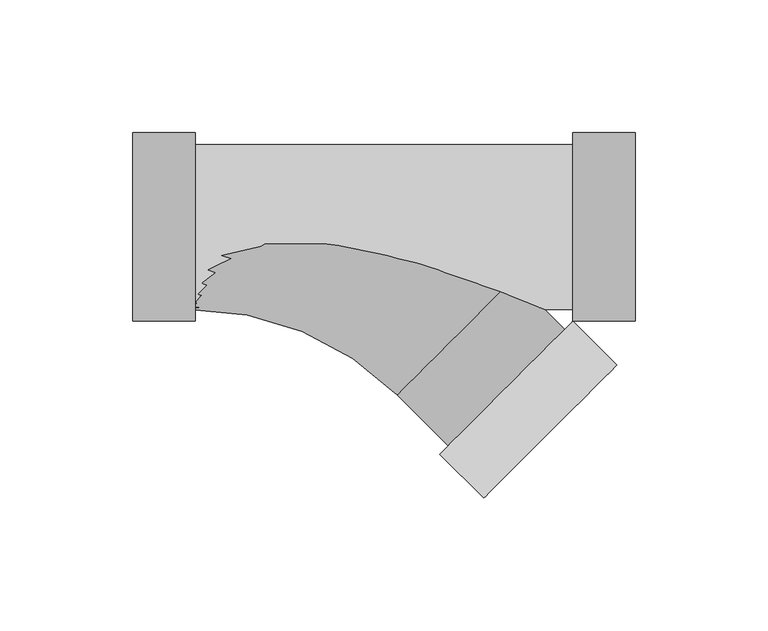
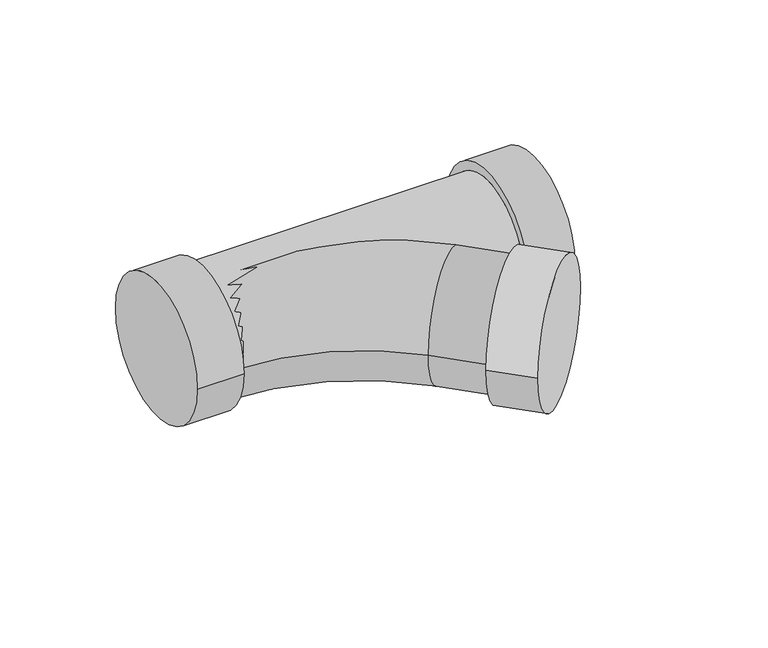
"""IFC4 building model written with IfcOpenShell, lengths in millimetres: pipe fitting geometry, M_Sanitario con te de reducción - PVC - Serie 40 - DWV : Estándar."""

from ifc_helpers import new_model, si_unit, point, frame, origin, place, context, project, spatial, circle_curve, ellipse_curve, trimmed, source, transform, mapped, element, save
from ifc_brep_helpers import plane_surface, cylinder_surface, revolved_surface, advanced_brep


def pipe_fitting_0163322b(model_context):
    return source(origin(), model_context, "Body", "AdvancedBrep", [
        advanced_brep(
        [(85.5092942, -35.4191094, 0.0), (85.5092942, 35.4191094, 0.0), (85.5092942, -30.9800625, 0.0), (85.5092942, 30.9800625, 0.0), (108.8376067, -35.4191094, 0.0), (108.8376067, 35.4191094, 0.0), (-56.6061542, 30.9800625, 0.0), (-56.6061542, -30.9800625, 0.0), (-79.9344667, -35.4191094, 0.0), (-79.9344667, 35.4191094, 0.0), (-56.6061542, -35.4191094, 0.0), (-56.6061542, 35.4191094, 0.0)],
        [
            (0, 1, circle_curve(frame((85.5092942, 0.0, 0.0), z_axis=(-1.0, 0.0, 0.0), x_axis=(0.0, 1.0, 0.0)), 35.4191094)),
            (1, 0, circle_curve(frame((85.5092942, 0.0, 0.0), z_axis=(-1.0, 0.0, 0.0), x_axis=(0.0, 1.0, 0.0)), 35.4191094)),
            (2, 3, circle_curve(frame((85.5092942, 0.0, 0.0), z_axis=(1.0, 0.0, 0.0), x_axis=(0.0, 0.0, -1.0)), 30.9800625)),
            (3, 2, circle_curve(frame((85.5092942, 0.0, 0.0), z_axis=(1.0, 0.0, 0.0), x_axis=(0.0, 0.0, 1.0)), 30.9800625)),
            (4, 5, circle_curve(frame((108.8376067, 0.0, 0.0), z_axis=(1.0, 0.0, 0.0), x_axis=(0.0, 1.0, 0.0)), 35.4191094)),
            (5, 4, circle_curve(frame((108.8376067, 0.0, 0.0), z_axis=(1.0, 0.0, 0.0), x_axis=(0.0, 1.0, 0.0)), 35.4191094)),
            (0, 4),
            (5, 1),
            (6, 3),
            (2, 7),
            (7, 6, circle_curve(frame((-56.6061542, 0.0, 0.0), z_axis=(1.0, 0.0, 0.0), x_axis=(0.0, 0.0, -1.0)), 30.9800625)),
            (6, 7, circle_curve(frame((-56.6061542, 0.0, 0.0), z_axis=(1.0, 0.0, 0.0), x_axis=(0.0, 0.0, 1.0)), 30.9800625)),
            (8, 9, circle_curve(frame((-79.9344667, 0.0, 0.0), z_axis=(-1.0, 0.0, 0.0), x_axis=(0.0, 1.0, 0.0)), 35.4191094)),
            (9, 8, circle_curve(frame((-79.9344667, 0.0, 0.0), z_axis=(-1.0, 0.0, 0.0), x_axis=(0.0, 1.0, 0.0)), 35.4191094)),
            (10, 11, circle_curve(frame((-56.6061542, 0.0, 0.0), z_axis=(1.0, 0.0, 0.0), x_axis=(0.0, 1.0, 0.0)), 35.4191094)),
            (11, 10, circle_curve(frame((-56.6061542, 0.0, 0.0), z_axis=(1.0, 0.0, 0.0), x_axis=(0.0, 1.0, 0.0)), 35.4191094)),
            (8, 10),
            (11, 9),
        ],
        [
            plane_surface(frame((85.5092942, 0.0, 0.0), z_axis=(-1.0, 0.0, 0.0), x_axis=(0.0, 0.0, 1.0))),
            plane_surface(frame((108.8376067, 0.0, 0.0), z_axis=(1.0, 0.0, 0.0), x_axis=(0.0, 0.0, 1.0))),
            cylinder_surface(frame((85.5092942, 0.0, 0.0), z_axis=(-1.0, 0.0, 0.0), x_axis=(0.0, 1.0, 0.0)), 35.4191094),
            cylinder_surface(frame((-56.6061542, 0.0, 0.0), z_axis=(1.0, 0.0, 0.0), x_axis=(0.0, 0.0, -1.0)), 30.9800625),
            cylinder_surface(frame((-56.6061542, 0.0, 0.0), z_axis=(1.0, 0.0, 0.0), x_axis=(0.0, 0.0, 1.0)), 30.9800625),
            plane_surface(frame((-79.9344667, 0.0, 0.0), z_axis=(-1.0, 0.0, 0.0), x_axis=(0.0, 0.0, 1.0))),
            plane_surface(frame((-56.6061542, 0.0, 0.0), z_axis=(1.0, 0.0, 0.0), x_axis=(0.0, 0.0, 1.0))),
            cylinder_surface(frame((-79.9344667, 0.0, 0.0), z_axis=(-1.0, 0.0, 0.0), x_axis=(0.0, 1.0, 0.0)), 35.4191094),
        ],
        [
            (0, [[1, 2], [3, 4]]),
            (1, [[5, 6]]),
            (2, [[-1, 7, -6, 8]]),
            (2, [[-2, -8, -5, -7]]),
            (3, [[9, -3, 10, 11]]),
            (4, [[-9, 12, -10, -4]]),
            (5, [[13, 14]]),
            (6, [[15, 16], [-11, -12]]),
            (7, [[-13, 17, -16, 18]]),
            (7, [[-14, -18, -15, -17]]),
        ],
    ),
        advanced_brep(
        [(102.0049022, -51.9147173, 0.0), (51.9147173, -102.0049022, 0.0), (41.3400478, -41.3400478, 30.9800625), (19.4338355, -63.2462601, 0.0), (38.5579895, -82.3704141, 0.0), (82.3704141, -38.5579895, 0.0), (63.2462601, -19.4338355, 0.0), (41.3400478, -41.3400478, -30.9800625), (-58.4636562, -30.9800625, 0.0), (-58.4636562, 30.9800625, 0.0), (85.5092942, -35.4191094, 0.0), (35.4191094, -85.5092942, 0.0)],
        [
            (0, 1, circle_curve(frame((76.9598098, -76.9598098, 0.0), z_axis=(0.7071067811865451, -0.7071067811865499, 0.0), x_axis=(-0.7071067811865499, -0.7071067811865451, 0.0)), 35.4191094)),
            (1, 0, circle_curve(frame((76.9598098, -76.9598098, 0.0), z_axis=(0.7071067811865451, -0.7071067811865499, 0.0), x_axis=(-0.7071067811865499, -0.7071067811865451, 0.0)), 35.4191094)),
            (2, 3, circle_curve(frame((41.3400478, -41.3400478, 0.0), z_axis=(0.7071067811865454, -0.7071067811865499, 0.0), x_axis=(0.7071067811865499, 0.7071067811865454, 0.0)), 30.9800625)),
            (3, 4),
            (4, 5, circle_curve(frame((60.4642018, -60.4642018, 0.0), z_axis=(-0.7071067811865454, 0.7071067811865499, 0.0), x_axis=(0.7071067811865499, 0.7071067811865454, 0.0)), 30.9800625)),
            (5, 6),
            (6, 2, circle_curve(frame((41.3400478, -41.3400478, 0.0), z_axis=(0.7071067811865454, -0.7071067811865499, 0.0), x_axis=(0.7071067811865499, 0.7071067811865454, 0.0)), 30.9800625)),
            (3, 7, circle_curve(frame((41.3400478, -41.3400478, 0.0), z_axis=(0.7071067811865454, -0.7071067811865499, 0.0), x_axis=(0.7071067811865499, 0.7071067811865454, 0.0)), 30.9800625)),
            (7, 6, circle_curve(frame((41.3400478, -41.3400478, 0.0), z_axis=(0.7071067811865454, -0.7071067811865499, 0.0), x_axis=(0.7071067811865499, 0.7071067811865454, 0.0)), 30.9800625)),
            (5, 4, circle_curve(frame((60.4642018, -60.4642018, 0.0), z_axis=(-0.7071067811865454, 0.7071067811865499, 0.0), x_axis=(0.7071067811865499, 0.7071067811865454, 0.0)), 30.9800625)),
            (8, 9, circle_curve(frame((-58.4636562, 0.0, 0.0), z_axis=(-1.0000000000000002, 0.0, 0.0), x_axis=(0.0, 1.0, 0.0)), 30.9800625)),
            (9, 8, circle_curve(frame((-58.4636562, 0.0, 0.0), z_axis=(-1.0000000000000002, 0.0, 0.0), x_axis=(0.0, 1.0, 0.0)), 30.9800625)),
            (8, 3, circle_curve(frame((-58.4636562, -141.1437518, 0.0), z_axis=(0.0, 0.0, -1.0), x_axis=(0.0, 1.0, 0.0)), 110.1636893)),
            (6, 9, circle_curve(frame((-58.4636562, -141.1437518, 0.0), z_axis=(0.0, 0.0, 1.0), x_axis=(0.0, 1.0, 0.0)), 172.1238143)),
            (10, 11, circle_curve(frame((60.4642018, -60.4642018, 0.0), z_axis=(-0.7071067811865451, 0.7071067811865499, 0.0), x_axis=(-0.7071067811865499, -0.7071067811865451, 0.0)), 35.4191094)),
            (11, 10, circle_curve(frame((60.4642018, -60.4642018, 0.0), z_axis=(-0.7071067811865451, 0.7071067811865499, 0.0), x_axis=(-0.7071067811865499, -0.7071067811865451, 0.0)), 35.4191094)),
            (0, 10),
            (11, 1),
        ],
        [
            plane_surface(frame((76.9598098, -76.9598098, 0.0), z_axis=(0.7071067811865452, -0.7071067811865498, 0.0), x_axis=(0.0, 0.0, 1.0))),
            cylinder_surface(frame((41.3400478, -41.3400478, 0.0), z_axis=(-0.7071067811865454, 0.7071067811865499, 0.0), x_axis=(0.7071067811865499, 0.7071067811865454, 0.0)), 30.9800625),
            plane_surface(frame((-58.4636562, 0.0, 0.0), z_axis=(-1.0, 0.0, 0.0), x_axis=(0.0, 0.0, 1.0))),
            revolved_surface(trimmed(ellipse_curve(frame((-58.4636562, 0.0, 0.0), z_axis=(-1.0000000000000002, 0.0, 0.0), x_axis=(0.0, 1.0, 0.0)), 30.9800625, 30.9800625), [point((-58.4636562, -30.9800625, 0.0))], [point((-58.4636562, 30.9800625, 0.0))], True, "CARTESIAN"), (-58.4636562, -141.1437518, 0.0), (0.0, 0.0, -1.0000000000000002)),
            revolved_surface(trimmed(ellipse_curve(frame((-58.4636562, 0.0, 0.0), z_axis=(-1.0000000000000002, 0.0, 0.0), x_axis=(0.0, 1.0, 0.0)), 30.9800625, 30.9800625), [point((-58.4636562, 30.9800625, 0.0))], [point((-58.4636562, -30.9800625, 0.0))], True, "CARTESIAN"), (-58.4636562, -141.1437518, 0.0), (0.0, 0.0, -1.0000000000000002)),
            plane_surface(frame((60.4642018, -60.4642018, 0.0), z_axis=(-0.7071067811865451, 0.7071067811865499, 0.0), x_axis=(0.0, 0.0, 1.0))),
            cylinder_surface(frame((76.9598098, -76.9598098, 0.0), z_axis=(0.7071067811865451, -0.7071067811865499, 0.0), x_axis=(-0.7071067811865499, -0.7071067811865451, 0.0)), 35.4191094),
        ],
        [
            (0, [[1, 2]]),
            (1, [[3, 4, 5, 6, 7]]),
            (1, [[8, 9, -6, 10, -4]]),
            (2, [[11, 12]]),
            (3, [[-11, 13, -3, -7, 14]]),
            (4, [[-12, -14, -9, -8, -13]]),
            (5, [[15, 16], [-5, -10]]),
            (6, [[-1, 17, -16, 18]]),
            (6, [[-2, -18, -15, -17]]),
        ],
    ),
    ])


if __name__ == "__main__":
    model = new_model("IFC4")
    model_context = context("Model", 3, world=origin())
    ifc_project = project(units=[si_unit("LENGTHUNIT", "METRE", prefix="MILLI")], contexts=[model_context])
    site = spatial("IfcSite", under=ifc_project)
    building = spatial("IfcBuilding", under=site)
    placement = place(None, origin())
    pipe_fitting_shape = pipe_fitting_0163322b(model_context)
    element("IfcPipeFitting", 1, ObjectType="M_Sanitario con te de reducción - PVC - Serie 40 - DWV : Estándar", at=placement, inside=building, context=model_context, shape_type="MappedRepresentation", body=[
        mapped(pipe_fitting_shape, transform((0.0, 0.0, 0.0), x_axis=(1.0, 0.0, 0.0), y_axis=(0.0, 1.0, 0.0), z_axis=(0.0, 0.0, 1.0))),
    ])
    save(model, "model.ifc")
